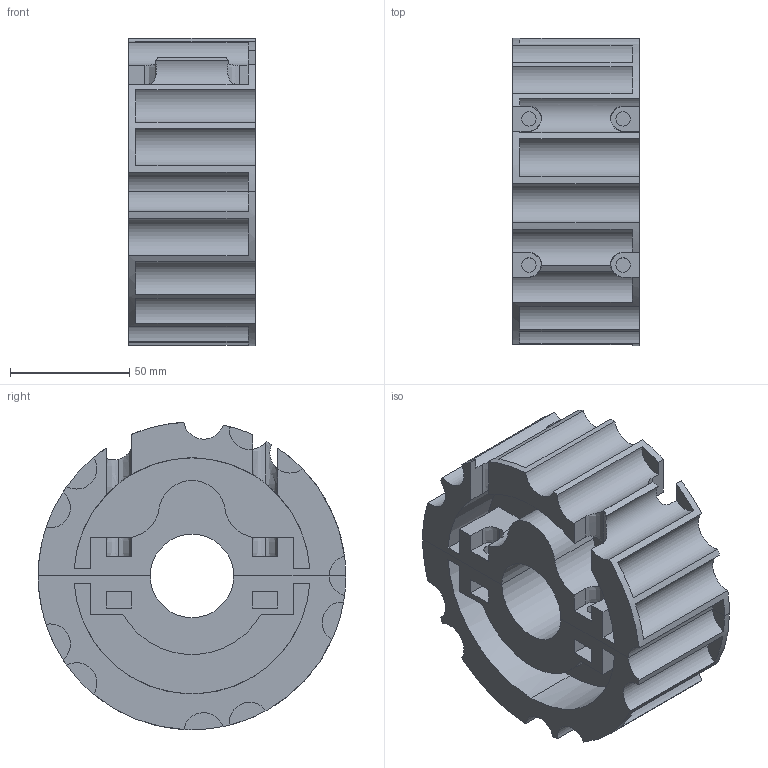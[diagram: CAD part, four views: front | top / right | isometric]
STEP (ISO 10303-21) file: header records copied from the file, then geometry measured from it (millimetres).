
FILE_DESCRIPTION(('CATIA V5 STEP Exchange','CAx-IF Rec.Pracs.--- Model Styling and Organization---1.4--- 2014-01-23'),'2;1');
FILE_NAME('C:\Users\Admin\Desktop\BUTUN-PARCALAR\alhan\312\314KI2321A.stp','2022-03-23T20:00:48+00:00',('none'),('none'),'CATIA Version 5-6 Release 2017','CATIA V5 STEP AP214','none');
FILE_SCHEMA(('AUTOMOTIVE_DESIGN { 1 0 10303 214 1 1 1 1 }'));
Length unit declared in the file: millimetre
Products named in the file (1): 314KI2321A
Bounding box: 53 x 129 x 128.91 mm (x, y, z)
Volume: 375171.4 mm3; surface area: 96325.9 mm2
Topology: 2 solids, 2 shells, 179 faces, 515 edges, 346 vertices
Faces by surface type: plane 100, cylinder 63, extrusion 16
Entity records: 5554 total; most frequent: CARTESIAN_POINT 1290, ORIENTED_EDGE 1030, DIRECTION 607, EDGE_CURVE 515, VERTEX_POINT 346, VECTOR 311, LINE 295, AXIS2_PLACEMENT_3D 241
